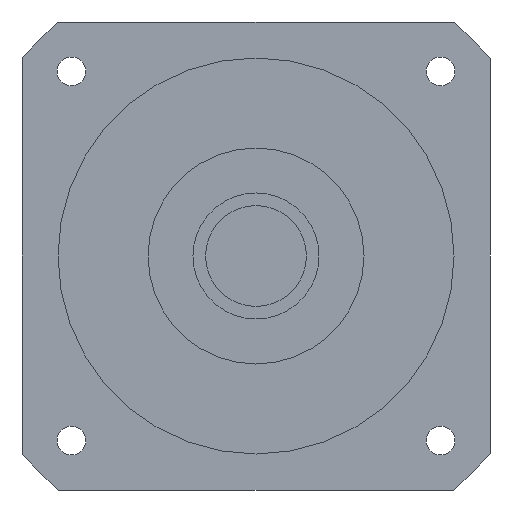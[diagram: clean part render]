
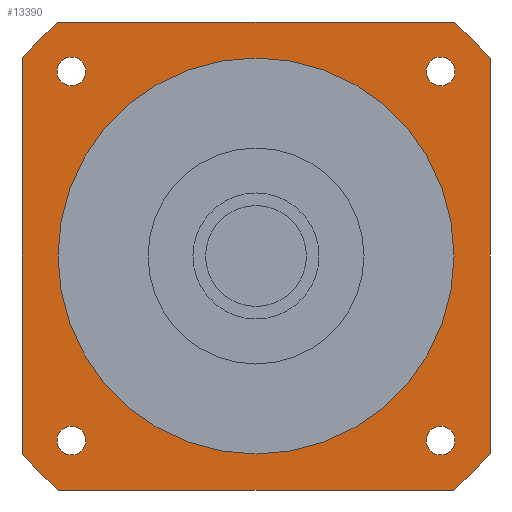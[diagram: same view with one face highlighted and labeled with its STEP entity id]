
A CAD part, left-side view. The second image highlights one B-rep face of the part: STEP entity #13390.
In plain terms, the highlighted planar face has unit normal (-1, 0, 0) as drawn and (0, 0, -1) by its records, which use the part's own axes.
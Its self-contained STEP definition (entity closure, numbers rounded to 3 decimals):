
#9280=CARTESIAN_POINT('',(65.,-54.772,-83.6));
#9290=VERTEX_POINT('',#9280);
#9340=CARTESIAN_POINT('',(0.,0.,
-83.6));
#9350=DIRECTION('',(0.,0.,-1.));
#9360=DIRECTION('',(1.,0.,0.));
#9370=AXIS2_PLACEMENT_3D('',#9340,#9350,#9360);
#9380=CIRCLE('',#9370,85.);
#9390=CARTESIAN_POINT('',(54.772,-65.,-83.6));
#9400=VERTEX_POINT('',#9390);
#9410=EDGE_CURVE('',#9290,#9400,#9380,.T.);
#11820=CARTESIAN_POINT('',(-51.265,-47.265,-83.6));
#11830=VERTEX_POINT('',#11820);
#11860=CARTESIAN_POINT('',(-51.265,-51.265,-83.6));
#11870=DIRECTION('',(0.,0.,-1.));
#11880=DIRECTION('',(0.,-1.,0.));
#11890=AXIS2_PLACEMENT_3D('',#11860,#11870,#11880);
#11900=CIRCLE('',#11890,4.);
#11910=CARTESIAN_POINT('',(-51.265,-55.265,-83.6));
#11920=VERTEX_POINT('',#11910);
#11930=EDGE_CURVE('',#11920,#11830,#11900,.T.);
#12050=CARTESIAN_POINT('',(65.,65.,-83.6));
#12060=DIRECTION('',(0.,0.,-1.));
#12070=DIRECTION('',(1.,0.,0.));
#12080=AXIS2_PLACEMENT_3D('',#12050,#12060,#12070);
#12090=PLANE('',#12080);
#12100=ORIENTED_EDGE('',*,*,#11930,.F.);
#12110=EDGE_CURVE('',#11830,#11920,#11900,.T.);
#12120=ORIENTED_EDGE('',*,*,#12110,.F.);
#12130=EDGE_LOOP('',(#12120,#12100));
#12140=FACE_BOUND('',#12130,.T.);
#12150=CARTESIAN_POINT('',(-51.265,51.265,-83.6));
#12160=DIRECTION('',(0.,0.,-1.));
#12170=DIRECTION('',(-1.,0.,0.));
#12180=AXIS2_PLACEMENT_3D('',#12150,#12160,#12170);
#12190=CIRCLE('',#12180,4.);
#12200=CARTESIAN_POINT('',(-55.265,51.265,-83.6));
#12210=VERTEX_POINT('',#12200);
#12220=CARTESIAN_POINT('',(-47.265,51.265,-83.6));
#12230=VERTEX_POINT('',#12220);
#12240=EDGE_CURVE('',#12210,#12230,#12190,.T.);
#12250=ORIENTED_EDGE('',*,*,#12240,.F.);
#12260=EDGE_CURVE('',#12230,#12210,#12190,.T.);
#12270=ORIENTED_EDGE('',*,*,#12260,.F.);
#12280=EDGE_LOOP('',(#12270,#12250));
#12290=FACE_BOUND('',#12280,.T.);
#12300=CARTESIAN_POINT('',(51.265,51.265,-83.6));
#12310=DIRECTION('',(0.,0.,-1.));
#12320=DIRECTION('',(0.,1.,0.));
#12330=AXIS2_PLACEMENT_3D('',#12300,#12310,#12320);
#12340=CIRCLE('',#12330,4.);
#12350=CARTESIAN_POINT('',(51.265,55.265,-83.6));
#12360=VERTEX_POINT('',#12350);
#12370=CARTESIAN_POINT('',(51.265,47.265,-83.6));
#12380=VERTEX_POINT('',#12370);
#12390=EDGE_CURVE('',#12360,#12380,#12340,.T.);
#12400=ORIENTED_EDGE('',*,*,#12390,.F.);
#12410=EDGE_CURVE('',#12380,#12360,#12340,.T.);
#12420=ORIENTED_EDGE('',*,*,#12410,.F.);
#12430=EDGE_LOOP('',(#12420,#12400));
#12440=FACE_BOUND('',#12430,.T.);
#12450=CARTESIAN_POINT('',(0.,0.,
-83.6));
#12460=DIRECTION('',(0.,0.,1.));
#12470=DIRECTION('',(0.,1.,0.));
#12480=AXIS2_PLACEMENT_3D('',#12450,#12460,#12470);
#12490=CIRCLE('',#12480,55.);
#12500=CARTESIAN_POINT('',(-55.,0.,-83.6));
#12510=VERTEX_POINT('',#12500);
#12520=CARTESIAN_POINT('',(55.,0.,-83.6));
#12530=VERTEX_POINT('',#12520);
#12540=EDGE_CURVE('',#12510,#12530,#12490,.T.);
#12550=ORIENTED_EDGE('',*,*,#12540,.T.);
#12560=CARTESIAN_POINT('',(0.,55.,-83.6));
#12570=VERTEX_POINT('',#12560);
#12580=EDGE_CURVE('',#12570,#12510,#12490,.T.);
#12590=ORIENTED_EDGE('',*,*,#12580,.T.);
#12600=EDGE_CURVE('',#12530,#12570,#12490,.T.);
#12610=ORIENTED_EDGE('',*,*,#12600,.T.);
#12620=EDGE_LOOP('',(#12610,#12590,#12550));
#12630=FACE_BOUND('',#12620,.T.);
#12640=CARTESIAN_POINT('',(-65.,65.,-83.6));
#12650=DIRECTION('',(1.,0.,0.));
#12660=VECTOR('',#12650,1000.);
#12670=LINE('',#12640,#12660);
#12680=CARTESIAN_POINT('',(-54.772,65.,-83.6));
#12690=VERTEX_POINT('',#12680);
#12700=CARTESIAN_POINT('',(54.772,65.,-83.6));
#12710=VERTEX_POINT('',#12700);
#12720=EDGE_CURVE('',#12690,#12710,#12670,.T.);
#12730=ORIENTED_EDGE('',*,*,#12720,.T.);
#12740=CARTESIAN_POINT('',(0.,0.,
-83.6));
#12750=DIRECTION('',(0.,0.,-1.));
#12760=DIRECTION('',(1.,0.,0.));
#12770=AXIS2_PLACEMENT_3D('',#12740,#12750,#12760);
#12780=CIRCLE('',#12770,85.);
#12790=CARTESIAN_POINT('',(-65.,54.772,-83.6));
#12800=VERTEX_POINT('',#12790);
#12810=EDGE_CURVE('',#12800,#12690,#12780,.T.);
#12820=ORIENTED_EDGE('',*,*,#12810,.T.);
#12830=CARTESIAN_POINT('',(-65.,-65.,-83.6));
#12840=DIRECTION('',(0.,1.,0.));
#12850=VECTOR('',#12840,1000.);
#12860=LINE('',#12830,#12850);
#12870=CARTESIAN_POINT('',(-65.,-54.772,-83.6));
#12880=VERTEX_POINT('',#12870);
#12890=EDGE_CURVE('',#12880,#12800,#12860,.T.);
#12900=ORIENTED_EDGE('',*,*,#12890,.T.);
#12910=CARTESIAN_POINT('',(0.,0.,
-83.6));
#12920=DIRECTION('',(0.,0.,-1.));
#12930=DIRECTION('',(1.,0.,0.));
#12940=AXIS2_PLACEMENT_3D('',#12910,#12920,#12930);
#12950=CIRCLE('',#12940,85.);
#12960=CARTESIAN_POINT('',(-54.772,-65.,-83.6));
#12970=VERTEX_POINT('',#12960);
#12980=EDGE_CURVE('',#12970,#12880,#12950,.T.);
#12990=ORIENTED_EDGE('',*,*,#12980,.T.);
#13000=CARTESIAN_POINT('',(65.,-65.,-83.6));
#13010=DIRECTION('',(-1.,0.,0.));
#13020=VECTOR('',#13010,1000.);
#13030=LINE('',#13000,#13020);
#13040=EDGE_CURVE('',#9400,#12970,#13030,.T.);
#13050=ORIENTED_EDGE('',*,*,#13040,.T.);
#13060=ORIENTED_EDGE('',*,*,#9410,.T.);
#13070=CARTESIAN_POINT('',(65.,65.,-83.6));
#13080=DIRECTION('',(0.,-1.,0.));
#13090=VECTOR('',#13080,1000.);
#13100=LINE('',#13070,#13090);
#13110=CARTESIAN_POINT('',(65.,54.772,-83.6));
#13120=VERTEX_POINT('',#13110);
#13130=EDGE_CURVE('',#13120,#9290,#13100,.T.);
#13140=ORIENTED_EDGE('',*,*,#13130,.T.);
#13150=CARTESIAN_POINT('',(0.,0.,
-83.6));
#13160=DIRECTION('',(0.,0.,-1.));
#13170=DIRECTION('',(1.,0.,0.));
#13180=AXIS2_PLACEMENT_3D('',#13150,#13160,#13170);
#13190=CIRCLE('',#13180,85.);
#13200=EDGE_CURVE('',#12710,#13120,#13190,.T.);
#13210=ORIENTED_EDGE('',*,*,#13200,.T.);
#13220=EDGE_LOOP('',(#13210,#13140,#13060,#13050,#12990,#12900,#12820,
#12730));
#13230=FACE_OUTER_BOUND('',#13220,.T.);
#13240=CARTESIAN_POINT('',(51.265,-51.265,-83.6));
#13250=DIRECTION('',(0.,0.,-1.));
#13260=DIRECTION('',(1.,0.,0.));
#13270=AXIS2_PLACEMENT_3D('',#13240,#13250,#13260);
#13280=CIRCLE('',#13270,4.);
#13290=CARTESIAN_POINT('',(55.265,-51.265,-83.6));
#13300=VERTEX_POINT('',#13290);
#13310=CARTESIAN_POINT('',(47.265,-51.265,-83.6));
#13320=VERTEX_POINT('',#13310);
#13330=EDGE_CURVE('',#13300,#13320,#13280,.T.);
#13340=ORIENTED_EDGE('',*,*,#13330,.F.);
#13350=EDGE_CURVE('',#13320,#13300,#13280,.T.);
#13360=ORIENTED_EDGE('',*,*,#13350,.F.);
#13370=EDGE_LOOP('',(#13360,#13340));
#13380=FACE_BOUND('',#13370,.T.);
#13390=ADVANCED_FACE('',(#12140,#12290,#12440,#12630,#13230,#13380),
#12090,.T.);
